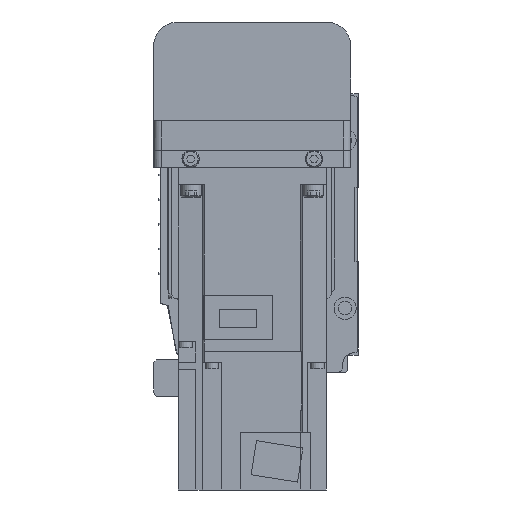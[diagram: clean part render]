
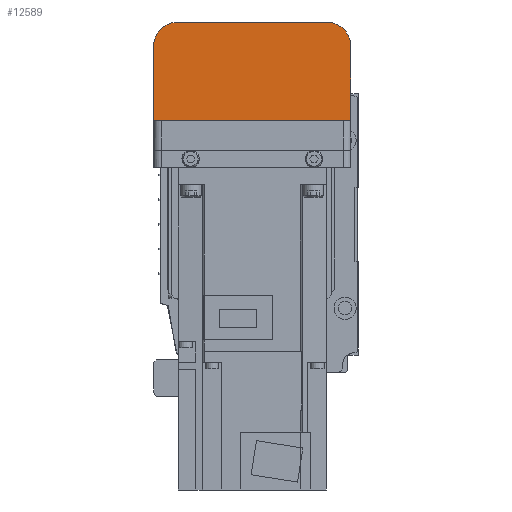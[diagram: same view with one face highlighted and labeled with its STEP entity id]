
A CAD part, left-side view. The second image highlights one B-rep face of the part: STEP entity #12589.
In plain terms, the highlighted planar face has unit normal (-1, 0, 0).
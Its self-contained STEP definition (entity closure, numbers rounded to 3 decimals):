
#487=CIRCLE('',#13555,10.);
#488=CIRCLE('',#13556,10.);
#2162=ORIENTED_EDGE('',*,*,#5089,.F.);
#2163=ORIENTED_EDGE('',*,*,#5090,.F.);
#2164=ORIENTED_EDGE('',*,*,#5091,.F.);
#2165=ORIENTED_EDGE('',*,*,#5092,.F.);
#2166=ORIENTED_EDGE('',*,*,#5093,.F.);
#2167=ORIENTED_EDGE('',*,*,#5094,.F.);
#5089=EDGE_CURVE('',#6659,#6655,#7941,.T.);
#5090=EDGE_CURVE('',#6671,#6659,#7942,.T.);
#5091=EDGE_CURVE('',#6672,#6671,#487,.T.);
#5092=EDGE_CURVE('',#6673,#6672,#7943,.T.);
#5093=EDGE_CURVE('',#6674,#6673,#488,.T.);
#5094=EDGE_CURVE('',#6655,#6674,#7944,.T.);
#6655=VERTEX_POINT('',#19675);
#6659=VERTEX_POINT('',#19685);
#6671=VERTEX_POINT('',#19714);
#6672=VERTEX_POINT('',#19716);
#6673=VERTEX_POINT('',#19718);
#6674=VERTEX_POINT('',#19720);
#7941=LINE('',#19712,#9169);
#7942=LINE('',#19713,#9170);
#7943=LINE('',#19717,#9171);
#7944=LINE('',#19721,#9172);
#9169=VECTOR('',#15820,1000.);
#9170=VECTOR('',#15821,1000.);
#9171=VECTOR('',#15824,1000.);
#9172=VECTOR('',#15827,1000.);
#10224=EDGE_LOOP('',(#2162,#2163,#2164,#2165,#2166,#2167));
#11202=FACE_BOUND('',#10224,.T.);
#12023=PLANE('',#13554);
#12589=ADVANCED_FACE('',(#11202),#12023,.F.);
#13554=AXIS2_PLACEMENT_3D('',#19711,#15818,#15819);
#13555=AXIS2_PLACEMENT_3D('',#19715,#15822,#15823);
#13556=AXIS2_PLACEMENT_3D('',#19719,#15825,#15826);
#15818=DIRECTION('',(1.,0.,0.));
#15819=DIRECTION('',(0.,0.,-1.));
#15820=DIRECTION('',(0.,-1.,0.));
#15821=DIRECTION('',(0.,0.,1.));
#15822=DIRECTION('',(1.,0.,0.));
#15823=DIRECTION('',(0.,0.,-1.));
#15824=DIRECTION('',(0.,1.,0.));
#15825=DIRECTION('',(1.,0.,0.));
#15826=DIRECTION('',(0.,0.,-1.));
#15827=DIRECTION('',(0.,0.,-1.));
#19675=CARTESIAN_POINT('',(-192.,-40.,-12.1));
#19685=CARTESIAN_POINT('',(-192.,40.,-12.1));
#19711=CARTESIAN_POINT('',(-192.,37.,7.));
#19712=CARTESIAN_POINT('',(-192.,50.,-12.1));
#19713=CARTESIAN_POINT('',(-192.,40.,-42.));
#19714=CARTESIAN_POINT('',(-192.,40.,-42.));
#19715=CARTESIAN_POINT('',(-192.,30.,-42.));
#19716=CARTESIAN_POINT('',(-192.,30.,-52.));
#19717=CARTESIAN_POINT('',(-192.,-30.,-52.));
#19718=CARTESIAN_POINT('',(-192.,-30.,-52.));
#19719=CARTESIAN_POINT('',(-192.,-30.,-42.));
#19720=CARTESIAN_POINT('',(-192.,-40.,-42.));
#19721=CARTESIAN_POINT('',(-192.,-40.,-12.1));
